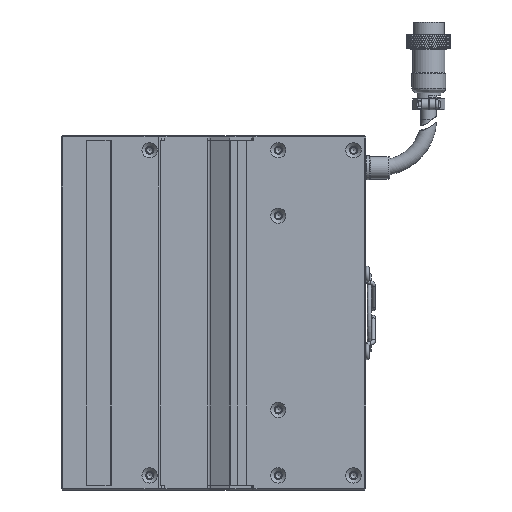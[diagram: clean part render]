
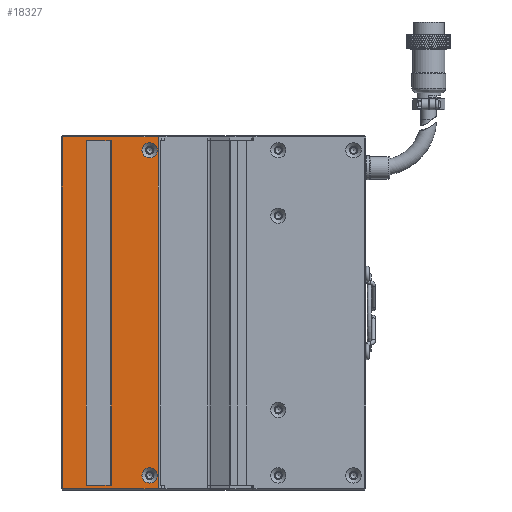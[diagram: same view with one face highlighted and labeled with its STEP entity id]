
A CAD part, left-side view. The second image highlights one B-rep face of the part: STEP entity #18327.
In plain terms, the highlighted planar face has unit normal (-1, 0, 0).
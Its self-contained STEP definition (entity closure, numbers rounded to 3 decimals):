
#519 = DIRECTION ( 'NONE',  ( 0., 0., -1. ) ) ;
#1190 = DIRECTION ( 'NONE',  ( 0., 1., 0. ) ) ;
#1975 = EDGE_CURVE ( 'NONE', #64005, #52576, #118984, .T. ) ;
#3476 = EDGE_LOOP ( 'NONE', ( #76231 ) ) ;
#3619 = CARTESIAN_POINT ( 'NONE',  ( -17., 32.355, -71. ) ) ;
#3918 = LINE ( 'NONE', #10628, #115647 ) ;
#4512 = FACE_OUTER_BOUND ( 'NONE', #71994, .T. ) ;
#4920 = VERTEX_POINT ( 'NONE', #19689 ) ;
#7222 = EDGE_CURVE ( 'NONE', #62974, #52576, #31162, .T. ) ;
#7451 = EDGE_CURVE ( 'NONE', #34839, #93001, #41370, .T. ) ;
#10393 = CARTESIAN_POINT ( 'NONE',  ( -17., 13.005, -72.5 ) ) ;
#10628 = CARTESIAN_POINT ( 'NONE',  ( -17., 53.005, 72.5 ) ) ;
#12108 = CARTESIAN_POINT ( 'NONE',  ( -17., 16.505, 67. ) ) ;
#12916 = DIRECTION ( 'NONE',  ( -1., 0., 0. ) ) ;
#13359 = ORIENTED_EDGE ( 'NONE', *, *, #18130, .F. ) ;
#13497 = ORIENTED_EDGE ( 'NONE', *, *, #1975, .T. ) ;
#15424 = ORIENTED_EDGE ( 'NONE', *, *, #46322, .T. ) ;
#16340 = ORIENTED_EDGE ( 'NONE', *, *, #32560, .T. ) ;
#16610 = CARTESIAN_POINT ( 'NONE',  ( -17., 11.505, 71. ) ) ;
#18130 = EDGE_CURVE ( 'NONE', #104326, #104326, #68978, .T. ) ;
#18327 = ADVANCED_FACE ( 'NONE', ( #33782, #4512, #61636, #23492 ), #109764, .F. ) ;
#19689 = CARTESIAN_POINT ( 'NONE',  ( -17., 42.555, 71. ) ) ;
#22557 = CARTESIAN_POINT ( 'NONE',  ( -17., 13.005, 72.5 ) ) ;
#23492 = FACE_BOUND ( 'NONE', #76297, .T. ) ;
#26168 = VERTEX_POINT ( 'NONE', #22557 ) ;
#27774 = CARTESIAN_POINT ( 'NONE',  ( -17., 42.555, 71. ) ) ;
#28172 = VECTOR ( 'NONE', #61602, 1000. ) ;
#31162 = LINE ( 'NONE', #118385, #28172 ) ;
#32560 = EDGE_CURVE ( 'NONE', #26168, #64005, #3918, .T. ) ;
#33147 = EDGE_CURVE ( 'NONE', #4920, #112155, #81685, .T. ) ;
#33685 = ORIENTED_EDGE ( 'NONE', *, *, #49612, .F. ) ;
#33782 = FACE_BOUND ( 'NONE', #114817, .T. ) ;
#34839 = VERTEX_POINT ( 'NONE', #84489 ) ;
#35183 = CARTESIAN_POINT ( 'NONE',  ( -17., 16.505, 70.15 ) ) ;
#35837 = DIRECTION ( 'NONE',  ( 0., -1., 0. ) ) ;
#37989 = LINE ( 'NONE', #89579, #90904 ) ;
#40877 = VERTEX_POINT ( 'NONE', #76610 ) ;
#41370 = LINE ( 'NONE', #46408, #85422 ) ;
#45607 = DIRECTION ( 'NONE',  ( 0., -1., 0. ) ) ;
#46322 = EDGE_CURVE ( 'NONE', #112155, #93001, #37989, .T. ) ;
#46408 = CARTESIAN_POINT ( 'NONE',  ( -17., 11.505, -71. ) ) ;
#46812 = AXIS2_PLACEMENT_3D ( 'NONE', #12108, #12916, #59261 ) ;
#47888 = VECTOR ( 'NONE', #35837, 1000. ) ;
#47918 = CIRCLE ( 'NONE', #105937, 3.15 ) ;
#49612 = EDGE_CURVE ( 'NONE', #4920, #34839, #82497, .T. ) ;
#49761 = DIRECTION ( 'NONE',  ( -1., 0., 0. ) ) ;
#52576 = VERTEX_POINT ( 'NONE', #91043 ) ;
#53839 = ORIENTED_EDGE ( 'NONE', *, *, #7222, .F. ) ;
#58386 = DIRECTION ( 'NONE',  ( 0., 0., 1. ) ) ;
#59261 = DIRECTION ( 'NONE',  ( 0., 0., 1. ) ) ;
#61602 = DIRECTION ( 'NONE',  ( 0., 1., 0. ) ) ;
#61636 = FACE_BOUND ( 'NONE', #3476, .T. ) ;
#62853 = CARTESIAN_POINT ( 'NONE',  ( -17., 42.555, 71. ) ) ;
#62974 = VERTEX_POINT ( 'NONE', #10393 ) ;
#64005 = VERTEX_POINT ( 'NONE', #111839 ) ;
#66869 = EDGE_CURVE ( 'NONE', #40877, #40877, #47918, .T. ) ;
#68978 = CIRCLE ( 'NONE', #46812, 3.15 ) ;
#70584 = EDGE_CURVE ( 'NONE', #26168, #62974, #97740, .T. ) ;
#71973 = AXIS2_PLACEMENT_3D ( 'NONE', #62853, #100721, #73967 ) ;
#71994 = EDGE_LOOP ( 'NONE', ( #13497, #53839, #113846, #16340 ) ) ;
#72686 = VECTOR ( 'NONE', #111820, 1000. ) ;
#73967 = DIRECTION ( 'NONE',  ( 0., 0., -1. ) ) ;
#76231 = ORIENTED_EDGE ( 'NONE', *, *, #66869, .F. ) ;
#76297 = EDGE_LOOP ( 'NONE', ( #13359 ) ) ;
#76610 = CARTESIAN_POINT ( 'NONE',  ( -17., 16.505, -63.85 ) ) ;
#77228 = CARTESIAN_POINT ( 'NONE',  ( -17., 52.505, 71. ) ) ;
#77676 = ORIENTED_EDGE ( 'NONE', *, *, #7451, .F. ) ;
#81642 = ORIENTED_EDGE ( 'NONE', *, *, #33147, .T. ) ;
#81685 = LINE ( 'NONE', #16610, #47888 ) ;
#82497 = LINE ( 'NONE', #27774, #113507 ) ;
#83792 = CARTESIAN_POINT ( 'NONE',  ( -17., 13.005, 71. ) ) ;
#84489 = CARTESIAN_POINT ( 'NONE',  ( -17., 42.555, -71. ) ) ;
#84815 = DIRECTION ( 'NONE',  ( 0., 0., -1. ) ) ;
#85422 = VECTOR ( 'NONE', #45607, 1000. ) ;
#89579 = CARTESIAN_POINT ( 'NONE',  ( -17., 32.355, 71. ) ) ;
#90904 = VECTOR ( 'NONE', #117996, 1000. ) ;
#91043 = CARTESIAN_POINT ( 'NONE',  ( -17., 52.505, -72.5 ) ) ;
#91886 = CARTESIAN_POINT ( 'NONE',  ( -17., 32.355, 71. ) ) ;
#93001 = VERTEX_POINT ( 'NONE', #3619 ) ;
#97740 = LINE ( 'NONE', #83792, #72686 ) ;
#100721 = DIRECTION ( 'NONE',  ( 1., 0., 0. ) ) ;
#104326 = VERTEX_POINT ( 'NONE', #35183 ) ;
#105937 = AXIS2_PLACEMENT_3D ( 'NONE', #115972, #49761, #58386 ) ;
#108701 = VECTOR ( 'NONE', #519, 1000. ) ;
#109764 = PLANE ( 'NONE',  #71973 ) ;
#111820 = DIRECTION ( 'NONE',  ( 0., 0., -1. ) ) ;
#111839 = CARTESIAN_POINT ( 'NONE',  ( -17., 52.505, 72.5 ) ) ;
#112155 = VERTEX_POINT ( 'NONE', #91886 ) ;
#113507 = VECTOR ( 'NONE', #84815, 1000. ) ;
#113846 = ORIENTED_EDGE ( 'NONE', *, *, #70584, .F. ) ;
#114817 = EDGE_LOOP ( 'NONE', ( #33685, #81642, #15424, #77676 ) ) ;
#115647 = VECTOR ( 'NONE', #1190, 1000. ) ;
#115972 = CARTESIAN_POINT ( 'NONE',  ( -17., 16.505, -67. ) ) ;
#117996 = DIRECTION ( 'NONE',  ( 0., 0., -1. ) ) ;
#118385 = CARTESIAN_POINT ( 'NONE',  ( -17., 53.005, -72.5 ) ) ;
#118984 = LINE ( 'NONE', #77228, #108701 ) ;
